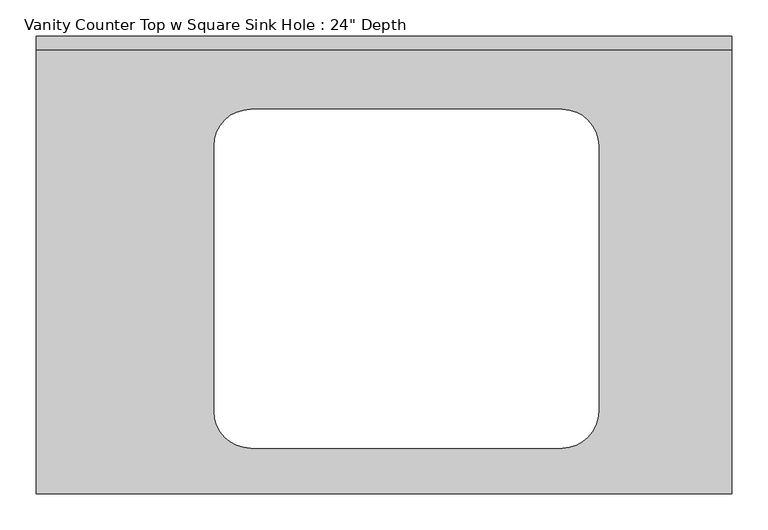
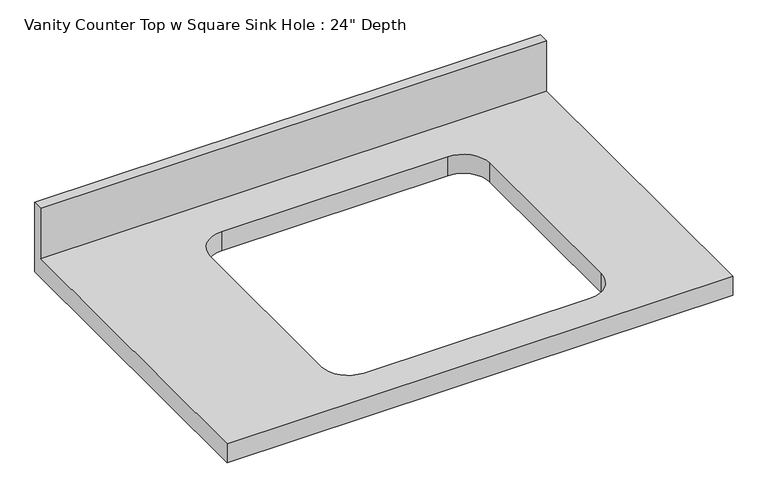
"""IFC4 building model written with IfcOpenShell, lengths in millimetres: furniture geometry."""

from ifc_helpers import new_model, si_unit, frame, origin, place, context, project, spatial, polyline, circle_curve, source, transform, mapped, element, save
from ifc_brep_helpers import plane_surface, revolved_surface, advanced_brep


def furniture_3190ce65(model_context):
    return source(origin(), model_context, "Body", "AdvancedBrep", [
        advanced_brep(
        [(-1268.7247951, -635.0, 787.4), (-303.5247951, -635.0, 787.4), (-303.5247951, -19.05, 787.4), (-1268.7247951, -19.05, 787.4), (-1021.7811319, -152.4, 787.4), (-970.9811319, -101.6, 787.4), (-539.1811319, -101.6, 787.4), (-488.3811319, -152.4, 787.4), (-488.3811319, -520.7, 787.4), (-539.1811319, -571.5, 787.4), (-970.9811319, -571.5, 787.4), (-1021.7811319, -520.7, 787.4), (-303.5247951, 0.0, 749.3), (-303.5247951, -635.0, 749.3), (-1268.7247951, -635.0, 749.3), (-1268.7247951, 0.0, 749.3), (-970.9811319, -101.6, 749.3), (-1021.7811319, -152.4, 749.3), (-1021.7811319, -520.7, 749.3), (-970.9811319, -571.5, 749.3), (-539.1811319, -571.5, 749.3), (-488.3811319, -520.7, 749.3), (-488.3811319, -152.4, 749.3), (-539.1811319, -101.6, 749.3), (-1268.7247951, 0.0, 889.0), (-303.5247951, 0.0, 889.0), (-1268.7247951, -19.05, 889.0), (-303.5247951, -19.05, 889.0)],
        [
            (0, 1),
            (1, 2),
            (2, 3),
            (3, 0),
            (4, 5, circle_curve(frame((-970.9811319, -152.4, 787.4), z_axis=(0.0, 0.0, -1.0), x_axis=(1.0, 0.0, 0.0)), 50.8)),
            (5, 6),
            (6, 7, circle_curve(frame((-539.1811319, -152.4, 787.4), z_axis=(0.0, 0.0, -1.0), x_axis=(1.0, 0.0, 0.0)), 50.8)),
            (7, 8),
            (8, 9, circle_curve(frame((-539.1811319, -520.7, 787.4), z_axis=(0.0, 0.0, -1.0), x_axis=(1.0, 0.0, 0.0)), 50.8)),
            (9, 10),
            (10, 11, circle_curve(frame((-970.9811319, -520.7, 787.4), z_axis=(0.0, 0.0, -1.0), x_axis=(1.0, 0.0, 0.0)), 50.8)),
            (11, 4),
            (12, 13),
            (13, 14),
            (14, 15),
            (15, 12),
            (16, 17, circle_curve(frame((-970.9811319, -152.4, 749.3), z_axis=(0.0, 0.0, 1.0), x_axis=(1.0, 0.0, 0.0)), 50.8)),
            (17, 18),
            (18, 19, circle_curve(frame((-970.9811319, -520.7, 749.3), z_axis=(0.0, 0.0, 1.0), x_axis=(1.0, 0.0, 0.0)), 50.8)),
            (19, 20),
            (20, 21, circle_curve(frame((-539.1811319, -520.7, 749.3), z_axis=(0.0, 0.0, 1.0), x_axis=(1.0, 0.0, 0.0)), 50.8)),
            (21, 22),
            (22, 23, circle_curve(frame((-539.1811319, -152.4, 749.3), z_axis=(0.0, 0.0, 1.0), x_axis=(1.0, 0.0, 0.0)), 50.8)),
            (23, 16),
            (15, 24),
            (24, 25),
            (25, 12),
            (14, 0),
            (3, 26),
            (26, 24),
            (13, 1),
            (25, 27),
            (27, 2),
            (26, 27),
            (4, 17),
            (16, 5),
            (11, 18),
            (10, 19),
            (9, 20),
            (8, 21),
            (7, 22),
            (6, 23),
        ],
        [
            plane_surface(frame((-1268.7247951, 0.0, 787.4), z_axis=(0.0, 0.0, 1.0), x_axis=(-1.0, 0.0, 0.0))),
            plane_surface(frame((-1268.7247951, 0.0, 749.3), z_axis=(0.0, 0.0, -1.0), x_axis=(1.0, 0.0, 0.0))),
            plane_surface(frame((-303.5247951, 0.0, 787.4), z_axis=(0.0, 1.0, 0.0), x_axis=(0.0, 0.0, -1.0))),
            plane_surface(frame((-1268.7247951, 0.0, 787.4), z_axis=(-1.0, 0.0, 0.0), x_axis=(0.0, 0.0, -1.0))),
            plane_surface(frame((-1268.7247951, -635.0, 787.4), z_axis=(0.0, -1.0, 0.0), x_axis=(0.0, 0.0, -1.0))),
            plane_surface(frame((-303.5247951, -635.0, 787.4), z_axis=(1.0, 0.0, 0.0), x_axis=(0.0, 0.0, -1.0))),
            plane_surface(frame((-1268.7247951, 0.0, 889.0), z_axis=(0.0, 0.0, 1.0), x_axis=(0.0, -1.0, 0.0))),
            plane_surface(frame((-1268.7247951, -19.05, 889.0), z_axis=(0.0, -1.0, 0.0), x_axis=(0.0, 0.0, -1.0))),
            revolved_surface(polyline([(-920.1811319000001, -152.4, 787.4), (-920.1811319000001, -152.4, 749.3)]), (-970.9811319, -152.4, 749.3), (0.0, 0.0, 1.0)),
            plane_surface(frame((-1021.7811319, -152.4, 787.4), z_axis=(1.0, 0.0, 0.0), x_axis=(0.0, 0.0, -1.0))),
            revolved_surface(polyline([(-920.1811319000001, -520.7, 787.4), (-920.1811319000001, -520.7, 749.3)]), (-970.9811319, -520.7, 749.3), (0.0, 0.0, 1.0)),
            plane_surface(frame((-970.9811319, -571.5, 787.4), z_axis=(0.0, 1.0, 0.0), x_axis=(0.0, 0.0, -1.0))),
            revolved_surface(polyline([(-488.38113189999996, -520.7, 787.4), (-488.38113189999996, -520.7, 749.3)]), (-539.1811319, -520.7, 749.3), (0.0, 0.0, 1.0)),
            plane_surface(frame((-488.3811319, -520.7, 787.4), z_axis=(-1.0, 0.0, 0.0), x_axis=(0.0, 0.0, -1.0))),
            revolved_surface(polyline([(-488.38113189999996, -152.4, 787.4), (-488.38113189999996, -152.4, 749.3)]), (-539.1811319, -152.4, 749.3), (0.0, 0.0, 1.0)),
            plane_surface(frame((-539.1811319, -101.6, 787.4), z_axis=(0.0, -1.0, 0.0), x_axis=(0.0, 0.0, -1.0))),
        ],
        [
            (0, [[1, 2, 3, 4], [5, 6, 7, 8, 9, 10, 11, 12]]),
            (1, [[13, 14, 15, 16], [17, 18, 19, 20, 21, 22, 23, 24]]),
            (2, [[-16, 25, 26, 27]]),
            (3, [[-15, 28, -4, 29, 30, -25]]),
            (4, [[-1, -28, -14, 31]]),
            (5, [[-13, -27, 32, 33, -2, -31]]),
            (6, [[-30, 34, -32, -26]]),
            (7, [[-34, -29, -3, -33]]),
            (8, [[35, -17, 36, -5]]),
            (9, [[-35, -12, 37, -18]]),
            (10, [[-37, -11, 38, -19]]),
            (11, [[-38, -10, 39, -20]]),
            (12, [[-39, -9, 40, -21]]),
            (13, [[-40, -8, 41, -22]]),
            (14, [[-41, -7, 42, -23]]),
            (15, [[-36, -24, -42, -6]]),
        ],
    ),
    ])


if __name__ == "__main__":
    model = new_model("IFC4")
    model_context = context("Model", 3, world=origin())
    ifc_project = project(units=[si_unit("LENGTHUNIT", "METRE", prefix="MILLI")], contexts=[model_context])
    site = spatial("IfcSite", under=ifc_project)
    building = spatial("IfcBuilding", under=site)
    placement = place(None, origin())
    furniture_shape = furniture_3190ce65(model_context)
    element("IfcFurniture", 1, ObjectType="Vanity Counter Top w Square Sink Hole : 24\" Depth", at=placement, inside=building, context=model_context, shape_type="MappedRepresentation", body=[
        mapped(furniture_shape, transform((0.0, 0.0, 0.0), x_axis=(1.0, 0.0, 0.0), y_axis=(0.0, 1.0, 0.0), z_axis=(0.0, 0.0, 1.0))),
    ])
    save(model, "model.ifc")
